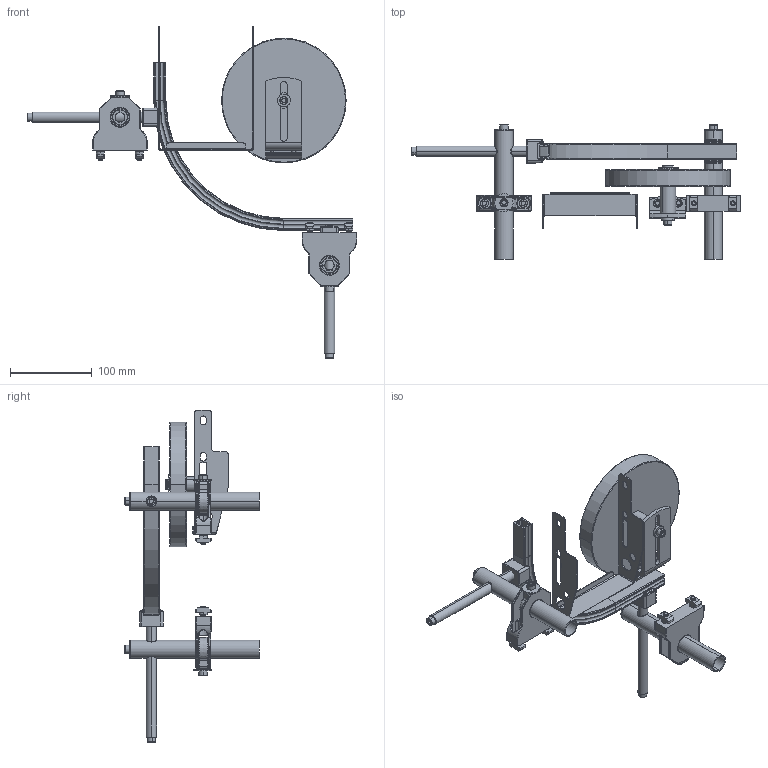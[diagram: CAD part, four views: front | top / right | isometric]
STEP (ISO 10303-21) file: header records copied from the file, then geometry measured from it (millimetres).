
FILE_DESCRIPTION((''),'2;1');
FILE_NAME('206524-04_ASM','2016-07-12T',('adam.dellomodarme'),(''),'PRO/ENGINEER BY PARAMETRIC TECHNOLOGY CORPORATION, 2012420','PRO/ENGINEER BY PARAMETRIC TECHNOLOGY CORPORATION, 2012420','');
FILE_SCHEMA(('CONFIG_CONTROL_DESIGN'));
Length unit declared in the file: inch
Products named in the file (28): 207138-WW_4; 234006; 234003M; 9206XXM_920614M; 207125-WW_207125-04; 605279P; 9206XXM_9206150M; 206383_X26128; 206685; 206380; 807-2859_91760A321; 911-709_91090A107; 206386; 206382_HEX; 990601M; 206385_0_875OD; 807-920; 206397_206397; 206381_206381; X26235_206686-1_ASM; 234005M; 234007M; X26235_206686-2_ASM; 9206XXM_920616M; 915-218; 200830M; ASM0001_ASM; 206524-04_ASM
Assembly tree (53 placements, depth 4):
  206524-04_ASM
    ASM0001_ASM
      207138-WW_4
      234006
      234003M
      9206XXM_920614M  x2
      207125-WW_207125-04
      605279P
      X26235_206686-1_ASM
        9206XXM_9206150M
        206383_X26128
        206685  x2
        206380
        807-2859_91760A321  x2
        911-709_91090A107  x2
        206386
        206382_HEX
        990601M
        206385_0_875OD
        9206XXM_920614M  x2
        807-920  x2
        206397_206397
        206381_206381
      234005M
      234007M
      X26235_206686-2_ASM
        206386
        206382_HEX
        206685  x2
        807-2859_91760A321  x2
        911-709_91090A107  x2
        990601M
        206385_0_875OD
        9206XXM_920614M  x2
        807-920  x2
        206397_206397
        206381_206381
        9206XXM_9206150M
        206383_X26128
        206380
      9206XXM_920616M
      915-218
      200830M
Bounding box: 402.86 x 164.65 x 406.02 mm (x, y, z)
Volume: 626789.9 mm3; surface area: 275538.1 mm2
Topology: 50 solids, 50 shells, 2409 faces, 6034 edges, 3658 vertices
Faces by surface type: cylinder 983, plane 568, cone 326, bspline 318, torus 154, sphere 52, extrusion 8
Entity records: 55583 total; most frequent: CARTESIAN_POINT 28738, ORIENTED_EDGE 5610, DIRECTION 5319, EDGE_CURVE 2805, AXIS2_PLACEMENT_3D 2092, VERTEX_POINT 1709, EDGE_LOOP 1228, FACE_OUTER_BOUND 1148
